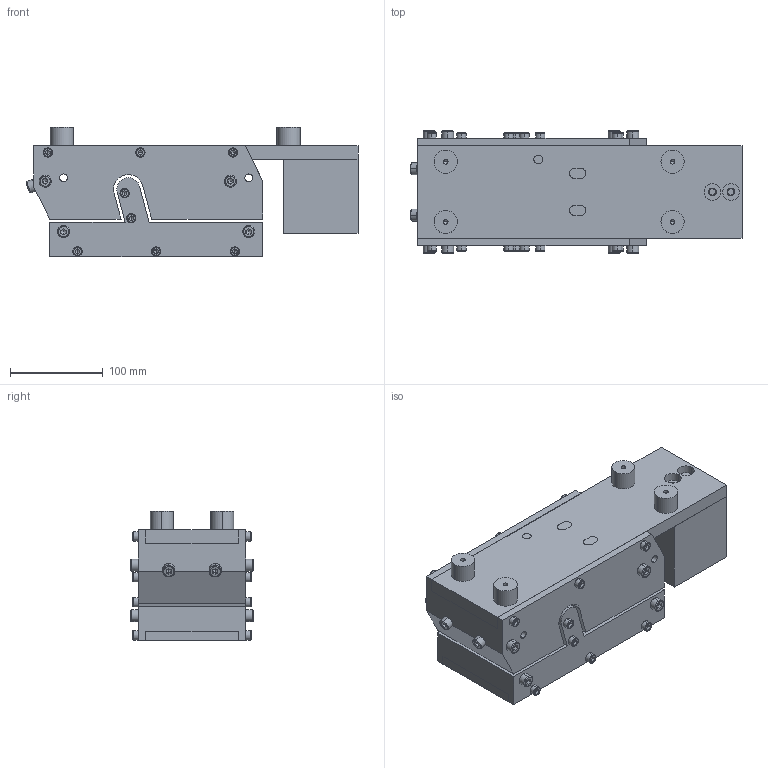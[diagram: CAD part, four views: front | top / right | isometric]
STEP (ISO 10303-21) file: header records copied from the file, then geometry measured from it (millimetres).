
FILE_DESCRIPTION (( 'STEP AP203' ), '1' );
FILE_NAME ('ZX230-001.STEP', '2022-12-09T01:53:35', ( '' ), ( '' ), 'SwSTEP 2.0', 'SolidWorks 2022', '' );
FILE_SCHEMA (( 'CONFIG_CONTROL_DESIGN' ));
Length unit declared in the file: millimetre
Products named in the file (1): ZX230-001
Bounding box: 358.57 x 132 x 140.4 mm (x, y, z)
Volume: 4191152.8 mm3; surface area: 468659.4 mm2
Topology: 36 solids, 36 shells, 950 faces, 2158 edges, 1299 vertices
Faces by surface type: plane 496, cylinder 272, cone 128, bspline 54
Entity records: 26707 total; most frequent: CARTESIAN_POINT 5306, DIRECTION 4674, ORIENTED_EDGE 4168, EDGE_CURVE 2084, AXIS2_PLACEMENT_3D 1747, VERTEX_POINT 1299, VECTOR 1180, LINE 1180
